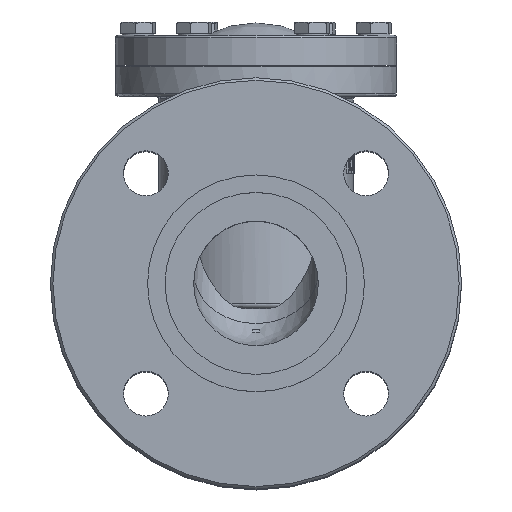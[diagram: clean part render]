
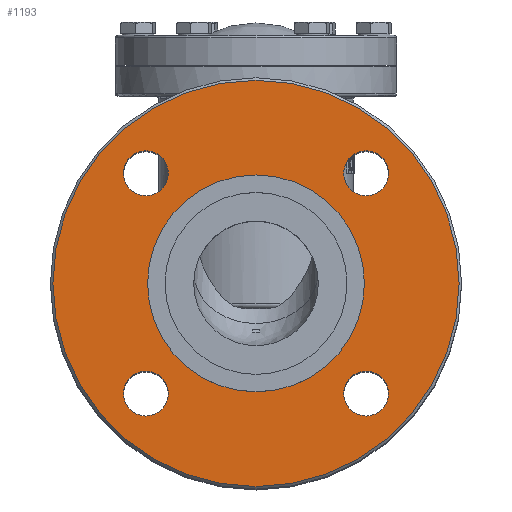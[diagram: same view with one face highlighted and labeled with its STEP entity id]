
A CAD part, top view. The second image highlights one B-rep face of the part: STEP entity #1193.
In plain terms, the highlighted planar face has unit normal (0, 0, 1).
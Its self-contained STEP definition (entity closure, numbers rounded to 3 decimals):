
#1193=ADVANCED_FACE('',(#5203,#5205,#5207,#5209,#5211,#5213),#5215,.F.);
#5203=FACE_BOUND('',#5204,.T.);
#5204=EDGE_LOOP('',(#7867));
#5205=FACE_BOUND('',#5206,.T.);
#5206=EDGE_LOOP('',(#7868));
#5207=FACE_BOUND('',#5208,.T.);
#5208=EDGE_LOOP('',(#7869));
#5209=FACE_BOUND('',#5210,.T.);
#5210=EDGE_LOOP('',(#7870));
#5211=FACE_BOUND('',#5212,.T.);
#5212=EDGE_LOOP('',(#7871));
#5213=FACE_BOUND('',#5214,.T.);
#5214=EDGE_LOOP('',(#7872));
#5215=PLANE('',#5216);
#5216=AXIS2_PLACEMENT_3D('',#5217,#5218,#5219);
#5217=CARTESIAN_POINT('',(0.,0.,110.5));
#5218=DIRECTION('',(0.,0.,-1.));
#5219=DIRECTION('',(0.,1.,0.));
#7867=ORIENTED_EDGE('',*,*,#9057,.F.);
#7868=ORIENTED_EDGE('',*,*,#9058,.T.);
#7869=ORIENTED_EDGE('',*,*,#9045,.F.);
#7870=ORIENTED_EDGE('',*,*,#9046,.F.);
#7871=ORIENTED_EDGE('',*,*,#9047,.F.);
#7872=ORIENTED_EDGE('',*,*,#9048,.F.);
#9045=EDGE_CURVE('',#10078,#10078,#10079,.T.);
#9046=EDGE_CURVE('',#10080,#10080,#10081,.T.);
#9047=EDGE_CURVE('',#10082,#10082,#10083,.T.);
#9048=EDGE_CURVE('',#10084,#10084,#10085,.T.);
#9057=EDGE_CURVE('',#10100,#10100,#10101,.F.);
#9058=EDGE_CURVE('',#10102,#10102,#10103,.T.);
#10078=VERTEX_POINT('',#17895);
#10079=CIRCLE('',#17896,9.);
#10080=VERTEX_POINT('',#17900);
#10081=CIRCLE('',#17901,9.);
#10082=VERTEX_POINT('',#17905);
#10083=CIRCLE('',#17906,9.);
#10084=VERTEX_POINT('',#17910);
#10085=CIRCLE('',#17911,9.);
#10100=VERTEX_POINT('',#18061);
#10101=CIRCLE('',#18062,81.5);
#10102=VERTEX_POINT('',#18066);
#10103=CIRCLE('',#18067,43.5);
#17895=CARTESIAN_POINT('',(53.194,-44.194,110.5));
#17896=AXIS2_PLACEMENT_3D('',#17897,#17898,#17899);
#17897=CARTESIAN_POINT('',(44.194,-44.194,110.5));
#17898=DIRECTION('',(0.,0.,1.));
#17899=DIRECTION('',(1.,0.,0.));
#17900=CARTESIAN_POINT('',(-35.194,-44.194,110.5));
#17901=AXIS2_PLACEMENT_3D('',#17902,#17903,#17904);
#17902=CARTESIAN_POINT('',(-44.194,-44.194,110.5));
#17903=DIRECTION('',(0.,0.,1.));
#17904=DIRECTION('',(1.,0.,0.));
#17905=CARTESIAN_POINT('',(-35.194,44.194,110.5));
#17906=AXIS2_PLACEMENT_3D('',#17907,#17908,#17909);
#17907=CARTESIAN_POINT('',(-44.194,44.194,110.5));
#17908=DIRECTION('',(0.,0.,1.));
#17909=DIRECTION('',(1.,0.,0.));
#17910=CARTESIAN_POINT('',(53.194,44.194,110.5));
#17911=AXIS2_PLACEMENT_3D('',#17912,#17913,#17914);
#17912=CARTESIAN_POINT('',(44.194,44.194,110.5));
#17913=DIRECTION('',(0.,0.,1.));
#17914=DIRECTION('',(1.,0.,0.));
#18061=CARTESIAN_POINT('',(-81.5,0.,110.5));
#18062=AXIS2_PLACEMENT_3D('',#18063,#18064,#18065);
#18063=CARTESIAN_POINT('',(0.,0.,110.5));
#18064=DIRECTION('',(0.,0.,1.));
#18065=DIRECTION('',(-1.,0.,0.));
#18066=CARTESIAN_POINT('',(0.,43.5,110.5));
#18067=AXIS2_PLACEMENT_3D('',#18068,#18069,#18070);
#18068=CARTESIAN_POINT('',(0.,0.,110.5));
#18069=DIRECTION('',(0.,0.,-1.));
#18070=DIRECTION('',(0.,1.,0.));
